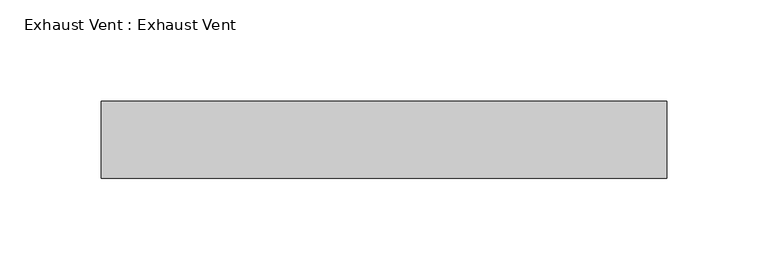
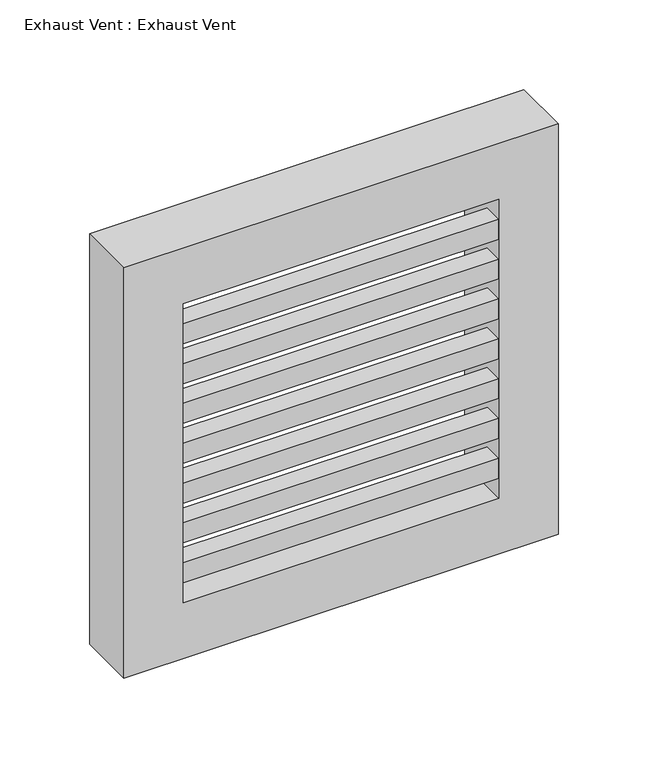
"""IFC4 building model written with IfcOpenShell, lengths in millimetres: proxy geometry, Exhaust Vent : Exhaust Vent."""

from ifc_helpers import new_model, si_unit, frame, origin, place, context, project, spatial, polyline, outline, extrude, source, transform, mapped, element, save


def exhaust_vent_exhaust_vent_277719e1(model_context):
    return source(origin(), model_context, "Body", "SweptSolid", [
        extrude(outline(polyline([(2070.1, -147.8443955), (1790.7, -147.8443955), (1790.7, 131.5556045), (2070.1, 131.5556045), (2070.1, -147.8443955)]), holes=[polyline([(2032.0, 93.4556045), (1828.8, 93.4556045), (1828.8, -109.7443955), (2032.0, -109.7443955), (2032.0, 93.4556045)])]), frame((0.0, 101.6, 0.0), z_axis=(0.0, 1.0, 0.0), x_axis=(0.0, 0.0, 1.0)), (0.0, 0.0, 1.0), 38.1),
        extrude(outline(polyline([(93.4556045, 101.6), (-109.7443955, 101.6), (-109.7443955, 114.3), (93.4556045, 114.3), (93.4556045, 101.6)])), frame((0.0, 0.0, 2004.9066667), z_axis=(0.0, 0.0, 1.0), x_axis=(1.0, 0.0, 0.0)), (0.0, 0.0, 1.0), 13.5466667),
        extrude(outline(polyline([(93.4556045, 101.6), (-109.7443955, 101.6), (-109.7443955, 114.3), (93.4556045, 114.3), (93.4556045, 101.6)])), frame((0.0, 0.0, 1977.8133333), z_axis=(0.0, 0.0, 1.0), x_axis=(1.0, 0.0, 0.0)), (0.0, 0.0, 1.0), 13.5466667),
        extrude(outline(polyline([(93.4556045, 101.6), (-109.7443955, 101.6), (-109.7443955, 114.3), (93.4556045, 114.3), (93.4556045, 101.6)])), frame((0.0, 0.0, 1950.72), z_axis=(0.0, 0.0, 1.0), x_axis=(1.0, 0.0, 0.0)), (0.0, 0.0, 1.0), 13.5466667),
        extrude(outline(polyline([(93.4556045, 101.6), (-109.7443955, 101.6), (-109.7443955, 114.3), (93.4556045, 114.3), (93.4556045, 101.6)])), frame((0.0, 0.0, 1923.6266667), z_axis=(0.0, 0.0, 1.0), x_axis=(1.0, 0.0, 0.0)), (0.0, 0.0, 1.0), 13.5466667),
        extrude(outline(polyline([(93.4556045, 101.6), (-109.7443955, 101.6), (-109.7443955, 114.3), (93.4556045, 114.3), (93.4556045, 101.6)])), frame((0.0, 0.0, 1896.5333333), z_axis=(0.0, 0.0, 1.0), x_axis=(1.0, 0.0, 0.0)), (0.0, 0.0, 1.0), 13.5466667),
        extrude(outline(polyline([(93.4556045, 101.6), (-109.7443955, 101.6), (-109.7443955, 114.3), (93.4556045, 114.3), (93.4556045, 101.6)])), frame((0.0, 0.0, 1869.44), z_axis=(0.0, 0.0, 1.0), x_axis=(1.0, 0.0, 0.0)), (0.0, 0.0, 1.0), 13.5466667),
        extrude(outline(polyline([(93.4556045, 101.6), (-109.7443955, 101.6), (-109.7443955, 114.3), (93.4556045, 114.3), (93.4556045, 101.6)])), frame((0.0, 0.0, 1842.3466667), z_axis=(0.0, 0.0, 1.0), x_axis=(1.0, 0.0, 0.0)), (0.0, 0.0, 1.0), 13.5466667),
    ])


if __name__ == "__main__":
    model = new_model("IFC4")
    model_context = context("Model", 3, world=origin())
    ifc_project = project(units=[si_unit("LENGTHUNIT", "METRE", prefix="MILLI")], contexts=[model_context])
    site = spatial("IfcSite", under=ifc_project)
    building = spatial("IfcBuilding", under=site)
    placement = place(None, origin())
    exhaust_vent_exhaust_vent_shape = exhaust_vent_exhaust_vent_277719e1(model_context)
    element("IfcBuildingElementProxy", 1, Name="Exhaust Vent : Exhaust Vent", ObjectType="Exhaust Vent : Exhaust Vent", at=placement, inside=building, context=model_context, shape_type="MappedRepresentation", body=[
        mapped(exhaust_vent_exhaust_vent_shape, transform((0.0, 0.0, 0.0), x_axis=(1.0, 0.0, 0.0), y_axis=(0.0, 1.0, 0.0), z_axis=(0.0, 0.0, 1.0))),
    ])
    save(model, "model.ifc")
